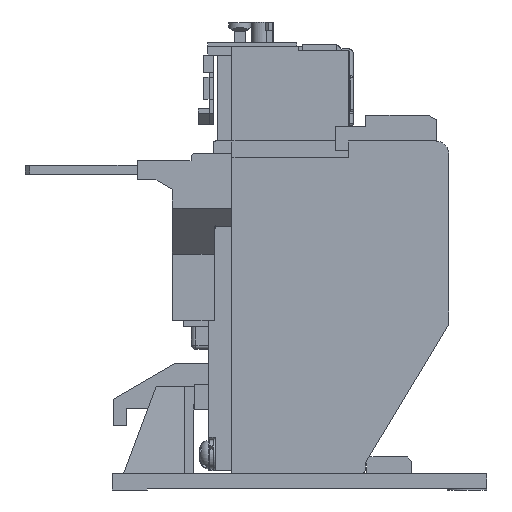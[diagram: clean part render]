
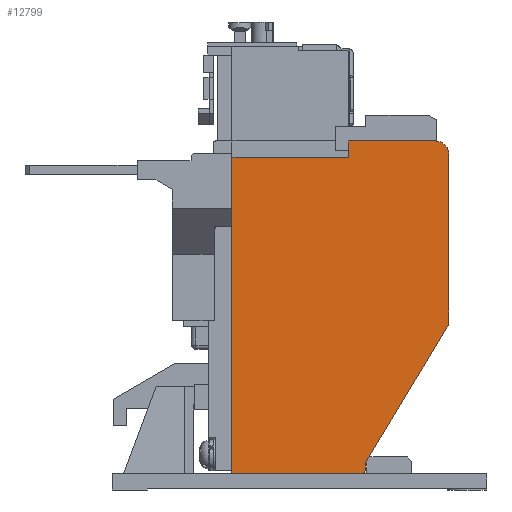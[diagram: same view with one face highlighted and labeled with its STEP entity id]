
A CAD part, left-side view. The second image highlights one B-rep face of the part: STEP entity #12799.
In plain terms, the highlighted planar face has unit normal (-1, 0, 0).
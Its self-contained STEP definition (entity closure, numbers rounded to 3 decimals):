
#1307 = CARTESIAN_POINT ( 'NONE',  ( -34., -46.2, 70.307 ) ) ;
#2346 = VERTEX_POINT ( 'NONE', #38289 ) ;
#2452 = VERTEX_POINT ( 'NONE', #33073 ) ;
#4031 = DIRECTION ( 'NONE',  ( 0., 1., 0. ) ) ;
#4040 = AXIS2_PLACEMENT_3D ( 'NONE', #14810, #41928, #18731 ) ;
#4063 = DIRECTION ( 'NONE',  ( 0., 0., -1. ) ) ;
#4405 = LINE ( 'NONE', #11463, #45633 ) ;
#4720 = ORIENTED_EDGE ( 'NONE', *, *, #19930, .T. ) ;
#5170 = PLANE ( 'NONE',  #44270 ) ;
#5529 = VECTOR ( 'NONE', #38050, 1000. ) ;
#5973 = VERTEX_POINT ( 'NONE', #25464 ) ;
#6262 = VERTEX_POINT ( 'NONE', #45559 ) ;
#7757 = ORIENTED_EDGE ( 'NONE', *, *, #31427, .F. ) ;
#8956 = EDGE_CURVE ( 'NONE', #30551, #48709, #26087, .T. ) ;
#9032 = EDGE_LOOP ( 'NONE', ( #30902, #4720, #32167, #9806, #7757, #11656, #9360, #27532, #16386, #19760 ) ) ;
#9360 = ORIENTED_EDGE ( 'NONE', *, *, #44284, .F. ) ;
#9806 = ORIENTED_EDGE ( 'NONE', *, *, #17128, .F. ) ;
#11102 = DIRECTION ( 'NONE',  ( 0., 1., 0. ) ) ;
#11441 = EDGE_CURVE ( 'NONE', #5973, #17900, #49766, .T. ) ;
#11463 = CARTESIAN_POINT ( 'NONE',  ( -34., -30.3, 0.307 ) ) ;
#11656 = ORIENTED_EDGE ( 'NONE', *, *, #8956, .F. ) ;
#12799 = ADVANCED_FACE ( 'NONE', ( #32049 ), #5170, .F. ) ;
#13781 = VECTOR ( 'NONE', #11102, 1000. ) ;
#14810 = CARTESIAN_POINT ( 'NONE',  ( -34., -46.2, 70.307 ) ) ;
#16228 = LINE ( 'NONE', #49576, #13781 ) ;
#16386 = ORIENTED_EDGE ( 'NONE', *, *, #35590, .F. ) ;
#16540 = LINE ( 'NONE', #37489, #35878 ) ;
#16850 = VERTEX_POINT ( 'NONE', #25360 ) ;
#17128 = EDGE_CURVE ( 'NONE', #2346, #5973, #29157, .T. ) ;
#17675 = CIRCLE ( 'NONE', #4040, 3. ) ;
#17900 = VERTEX_POINT ( 'NONE', #44429 ) ;
#18731 = DIRECTION ( 'NONE',  ( 0., 0., -1. ) ) ;
#19149 = DIRECTION ( 'NONE',  ( 1., 0., 0. ) ) ;
#19394 = DIRECTION ( 'NONE',  ( 0., -1., 0. ) ) ;
#19760 = ORIENTED_EDGE ( 'NONE', *, *, #22997, .F. ) ;
#19763 = VECTOR ( 'NONE', #4063, 1000. ) ;
#19930 = EDGE_CURVE ( 'NONE', #49736, #17900, #16228, .T. ) ;
#20650 = CARTESIAN_POINT ( 'NONE',  ( -34., -46.2, 73.307 ) ) ;
#20805 = CARTESIAN_POINT ( 'NONE',  ( -34., 0., 73.307 ) ) ;
#20889 = VERTEX_POINT ( 'NONE', #20650 ) ;
#22997 = EDGE_CURVE ( 'NONE', #16850, #20889, #49777, .T. ) ;
#23134 = CARTESIAN_POINT ( 'NONE',  ( -34., -26.5, 73.307 ) ) ;
#24857 = DIRECTION ( 'NONE',  ( 0., 0., 1. ) ) ;
#25337 = EDGE_CURVE ( 'NONE', #16850, #49736, #40362, .T. ) ;
#25360 = CARTESIAN_POINT ( 'NONE',  ( -34., -26.5, 73.307 ) ) ;
#25464 = CARTESIAN_POINT ( 'NONE',  ( -34., 0., -2.193 ) ) ;
#26087 = LINE ( 'NONE', #41281, #5529 ) ;
#27166 = CARTESIAN_POINT ( 'NONE',  ( -34., 0., -2.193 ) ) ;
#27532 = ORIENTED_EDGE ( 'NONE', *, *, #34669, .F. ) ;
#29157 = LINE ( 'NONE', #27166, #31580 ) ;
#30551 = VERTEX_POINT ( 'NONE', #36245 ) ;
#30902 = ORIENTED_EDGE ( 'NONE', *, *, #25337, .T. ) ;
#31427 = EDGE_CURVE ( 'NONE', #48709, #2346, #47208, .T. ) ;
#31448 = AXIS2_PLACEMENT_3D ( 'NONE', #42343, #19149, #46249 ) ;
#31532 = VECTOR ( 'NONE', #19394, 1000. ) ;
#31580 = VECTOR ( 'NONE', #4031, 1000. ) ;
#32049 = FACE_OUTER_BOUND ( 'NONE', #9032, .T. ) ;
#32167 = ORIENTED_EDGE ( 'NONE', *, *, #11441, .F. ) ;
#32220 = DIRECTION ( 'NONE',  ( 0., 0., -1. ) ) ;
#33073 = CARTESIAN_POINT ( 'NONE',  ( -34., -49.2, 31.762 ) ) ;
#34669 = EDGE_CURVE ( 'NONE', #6262, #2452, #16540, .T. ) ;
#35590 = EDGE_CURVE ( 'NONE', #20889, #6262, #17675, .T. ) ;
#35878 = VECTOR ( 'NONE', #41428, 1000. ) ;
#36245 = CARTESIAN_POINT ( 'NONE',  ( -34., -30.3, 0.307 ) ) ;
#36794 = CARTESIAN_POINT ( 'NONE',  ( -34., -30.3, -1.193 ) ) ;
#37489 = CARTESIAN_POINT ( 'NONE',  ( -34., -49.2, 70.307 ) ) ;
#38050 = DIRECTION ( 'NONE',  ( 0., 0., -1. ) ) ;
#38277 = CARTESIAN_POINT ( 'NONE',  ( -34., -26.5, 69.607 ) ) ;
#38289 = CARTESIAN_POINT ( 'NONE',  ( -34., -29.3, -2.193 ) ) ;
#38521 = DIRECTION ( 'NONE',  ( 0., 0.515, -0.857 ) ) ;
#39395 = VECTOR ( 'NONE', #24857, 1000. ) ;
#39864 = DIRECTION ( 'NONE',  ( 1., 0., 0. ) ) ;
#40362 = LINE ( 'NONE', #23134, #19763 ) ;
#41281 = CARTESIAN_POINT ( 'NONE',  ( -34., -30.3, 0.307 ) ) ;
#41428 = DIRECTION ( 'NONE',  ( 0., 0., -1. ) ) ;
#41928 = DIRECTION ( 'NONE',  ( 1., 0., 0. ) ) ;
#42343 = CARTESIAN_POINT ( 'NONE',  ( -34., -29.3, -1.193 ) ) ;
#42595 = CARTESIAN_POINT ( 'NONE',  ( -34., 0., 73.307 ) ) ;
#44270 = AXIS2_PLACEMENT_3D ( 'NONE', #1307, #39864, #32220 ) ;
#44284 = EDGE_CURVE ( 'NONE', #2452, #30551, #4405, .T. ) ;
#44429 = CARTESIAN_POINT ( 'NONE',  ( -34., 0., 69.607 ) ) ;
#45559 = CARTESIAN_POINT ( 'NONE',  ( -34., -49.2, 70.307 ) ) ;
#45633 = VECTOR ( 'NONE', #38521, 1000. ) ;
#46249 = DIRECTION ( 'NONE',  ( 0., 0., -1. ) ) ;
#47208 = CIRCLE ( 'NONE', #31448, 1. ) ;
#48709 = VERTEX_POINT ( 'NONE', #36794 ) ;
#49576 = CARTESIAN_POINT ( 'NONE',  ( -34., -26.5, 69.607 ) ) ;
#49736 = VERTEX_POINT ( 'NONE', #38277 ) ;
#49766 = LINE ( 'NONE', #20805, #39395 ) ;
#49777 = LINE ( 'NONE', #42595, #31532 ) ;
